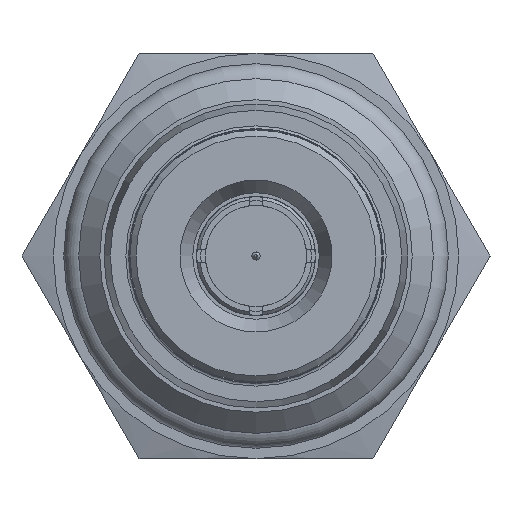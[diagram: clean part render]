
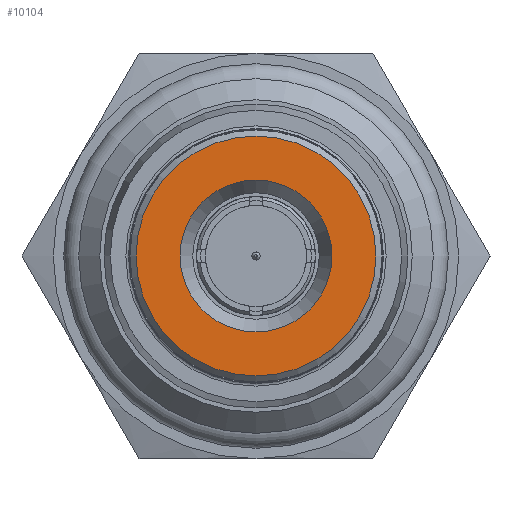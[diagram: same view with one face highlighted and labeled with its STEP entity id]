
A CAD part, front view. The second image highlights one B-rep face of the part: STEP entity #10104.
In plain terms, the highlighted planar face has unit normal (0, -1, 0).
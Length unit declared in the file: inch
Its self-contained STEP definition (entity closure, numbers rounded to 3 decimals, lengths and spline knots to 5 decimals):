
#278=CIRCLE('',#10738,0.296);
#284=CIRCLE('',#10746,0.1875);
#285=CIRCLE('',#10747,0.1875);
#706=FACE_BOUND('',#1961,.T.);
#1380=FACE_OUTER_BOUND('',#1960,.T.);
#1960=EDGE_LOOP('',(#8009));
#1961=EDGE_LOOP('',(#8010,#8011));
#4359=VERTEX_POINT('',#17078);
#4365=VERTEX_POINT('',#17094);
#4366=VERTEX_POINT('',#17095);
#5643=EDGE_CURVE('',#4359,#4359,#278,.T.);
#5651=EDGE_CURVE('',#4365,#4366,#284,.T.);
#5652=EDGE_CURVE('',#4366,#4365,#285,.T.);
#8009=ORIENTED_EDGE('',*,*,#5643,.F.);
#8010=ORIENTED_EDGE('',*,*,#5651,.T.);
#8011=ORIENTED_EDGE('',*,*,#5652,.T.);
#9143=PLANE('',#10745);
#10104=ADVANCED_FACE('',(#1380,#706),#9143,.T.);
#10738=AXIS2_PLACEMENT_3D('',#17079,#12641,#12642);
#10745=AXIS2_PLACEMENT_3D('',#17093,#12657,#12658);
#10746=AXIS2_PLACEMENT_3D('',#17096,#12659,#12660);
#10747=AXIS2_PLACEMENT_3D('',#17097,#12661,#12662);
#12641=DIRECTION('center_axis',(0.,1.,0.));
#12642=DIRECTION('ref_axis',(1.,0.,0.));
#12657=DIRECTION('center_axis',(0.,-1.,0.));
#12658=DIRECTION('ref_axis',(0.,0.,1.));
#12659=DIRECTION('center_axis',(0.,1.,0.));
#12660=DIRECTION('ref_axis',(-1.,0.,0.));
#12661=DIRECTION('center_axis',(0.,1.,0.));
#12662=DIRECTION('ref_axis',(-1.,0.,0.));
#17078=CARTESIAN_POINT('',(-0.296,-1.5465,0.));
#17079=CARTESIAN_POINT('Origin',(0.,-1.5465,0.));
#17093=CARTESIAN_POINT('Origin',(0.,-1.5465,0.));
#17094=CARTESIAN_POINT('',(-0.1875,-1.5465,0.));
#17095=CARTESIAN_POINT('',(0.1875,-1.5465,0.));
#17096=CARTESIAN_POINT('Origin',(0.,-1.5465,0.));
#17097=CARTESIAN_POINT('Origin',(0.,-1.5465,0.));
